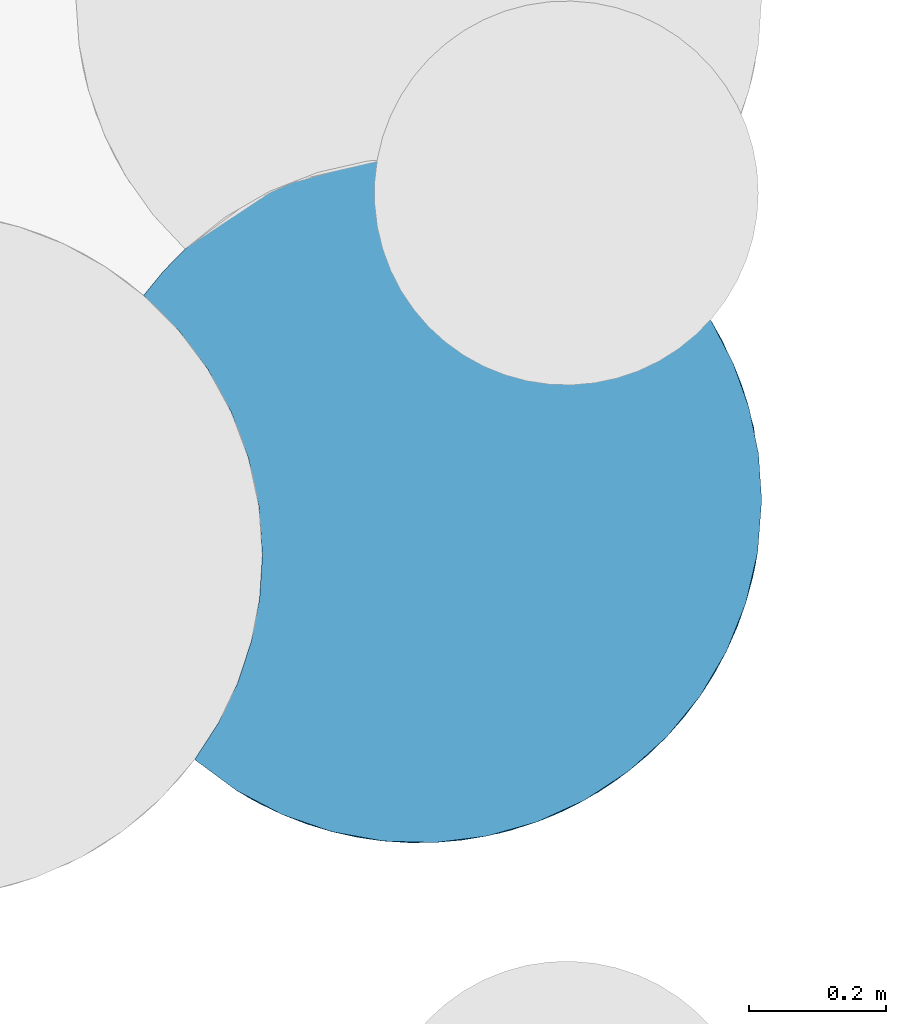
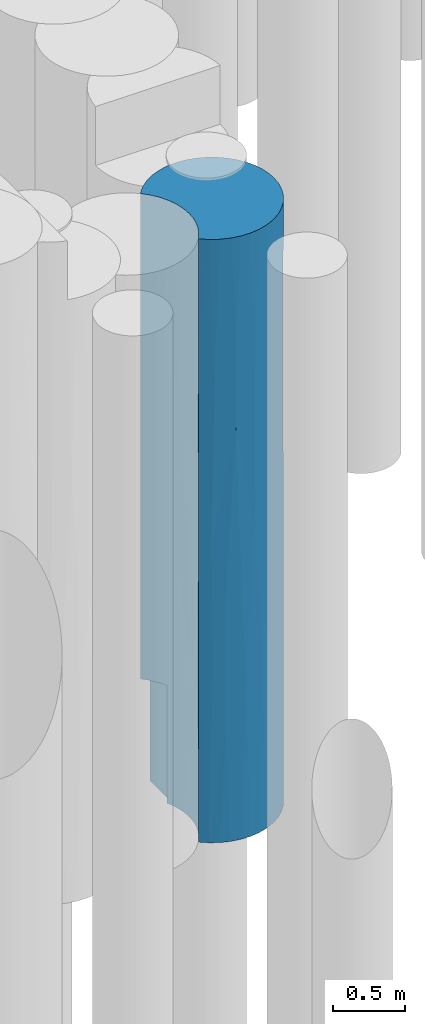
# One storey, part 41 of 104: 1 pile.
"""IFC2X3 building model written with IfcOpenShell, lengths in millimetres."""

from ifc_helpers import new_model, entity, si_unit, converted_unit, derived_unit, direction, frame, origin, place, context, subcontext, project, spatial, faceted_brep, source, transform, mapped, material, element, save


model = new_model("IFC2X3")

# Units and contexts
model_context = context("Model", 3, precision=0.01, world=origin(), true_north=direction((6.12303176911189e-17, 1.0)))
body_context = subcontext(model_context, "Body", "Model", "MODEL_VIEW")
ifc_project = project(units=[si_unit("LENGTHUNIT", "METRE", prefix="MILLI"), si_unit("AREAUNIT", "SQUARE_METRE", prefix="MILLI"), si_unit("VOLUMEUNIT", "CUBIC_METRE"), converted_unit("PLANEANGLEUNIT", "DEGREE", entity("IfcRatioMeasure", 0.0174532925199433), si_unit("PLANEANGLEUNIT", "RADIAN"), dimensions=[0, 0, 0, 0, 0, 0, 0]), si_unit("MASSUNIT", "GRAM", prefix="KILO"), derived_unit("MASSDENSITYUNIT", [(si_unit("MASSUNIT", "GRAM", prefix="KILO"), 1), (si_unit("LENGTHUNIT", "METRE"), -3)]), derived_unit("MOMENTOFINERTIAUNIT", [(si_unit("LENGTHUNIT", "METRE"), 4)]), si_unit("TIMEUNIT", "SECOND"), si_unit("FREQUENCYUNIT", "HERTZ"), si_unit("THERMODYNAMICTEMPERATUREUNIT", "DEGREE_CELSIUS"), derived_unit("THERMALTRANSMITTANCEUNIT", [(si_unit("MASSUNIT", "GRAM", prefix="KILO"), 1), (si_unit("THERMODYNAMICTEMPERATUREUNIT", "KELVIN"), -1), (si_unit("TIMEUNIT", "SECOND"), -3)]), derived_unit("VOLUMETRICFLOWRATEUNIT", [(si_unit("LENGTHUNIT", "METRE"), 3), (si_unit("TIMEUNIT", "SECOND"), -1)]), si_unit("ELECTRICCURRENTUNIT", "AMPERE"), si_unit("ELECTRICVOLTAGEUNIT", "VOLT"), si_unit("POWERUNIT", "WATT"), si_unit("FORCEUNIT", "NEWTON", prefix="KILO"), si_unit("ILLUMINANCEUNIT", "LUX"), si_unit("LUMINOUSFLUXUNIT", "LUMEN"), si_unit("LUMINOUSINTENSITYUNIT", "CANDELA"), derived_unit("USERDEFINED", [(si_unit("MASSUNIT", "GRAM", prefix="KILO"), -1), (si_unit("LENGTHUNIT", "METRE"), -2), (si_unit("TIMEUNIT", "SECOND"), 3), (si_unit("LUMINOUSFLUXUNIT", "LUMEN"), 1)]), derived_unit("LINEARVELOCITYUNIT", [(si_unit("LENGTHUNIT", "METRE"), 1), (si_unit("TIMEUNIT", "SECOND"), -1)]), si_unit("PRESSUREUNIT", "PASCAL"), derived_unit("USERDEFINED", [(si_unit("LENGTHUNIT", "METRE"), -2), (si_unit("MASSUNIT", "GRAM", prefix="KILO"), 1), (si_unit("TIMEUNIT", "SECOND"), -2)]), derived_unit("LINEARFORCEUNIT", [(si_unit("MASSUNIT", "GRAM", prefix="KILO"), 1), (si_unit("LENGTHUNIT", "METRE"), 1), (si_unit("TIMEUNIT", "SECOND"), -2), (si_unit("LENGTHUNIT", "METRE"), -1)]), derived_unit("PLANARFORCEUNIT", [(si_unit("MASSUNIT", "GRAM", prefix="KILO"), 1), (si_unit("LENGTHUNIT", "METRE"), 1), (si_unit("TIMEUNIT", "SECOND"), -2), (si_unit("LENGTHUNIT", "METRE"), -2)])], contexts=[model_context])

# Site, building, storey
site_placement = place(None, origin())
site = spatial("IfcSite", under=ifc_project, at=site_placement, Name="Theater aan de Parade", CompositionType="ELEMENT")
building_placement = place(site_placement, origin())
building = spatial("IfcBuilding", under=site, at=building_placement, Name="Theater aan de Parade", CompositionType="ELEMENT")
storey_placement = place(building_placement, frame((0.0, 0.0, -5520.0)))
storey = spatial("IfcBuildingStorey", under=building, at=storey_placement, Name="-2 kelder", CompositionType="ELEMENT", Elevation=-5520.0)

# Pile
ifc_material = material(Name="00_PBT_MAT_grout")
shared_shape = source(origin(), body_context, "Body", "Brep", [
    faceted_brep([(688.956678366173, 911.009093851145, 0.0), (743.414937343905, 867.014657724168, 0.0), (790.172816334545, 817.119218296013, 0.0), (829.681584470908, 761.306483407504, 0.0), (861.206904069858, 700.6221248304, 0.0), (884.158139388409, 636.199918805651, 0.0), (898.104119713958, 569.246509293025, 0.0), (902.783141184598, 501.003354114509, 0.0), (897.001537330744, 425.186621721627, 0.0), (879.790962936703, 351.124943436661, 0.0), (851.549579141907, 280.529582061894, 0.0), (812.930848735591, 215.033324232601, 0.0), (764.828072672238, 156.150533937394, 0.0), (708.353791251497, 105.24259580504, 0.0), (644.814052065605, 63.4864536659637, 0.0), (575.678207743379, 31.8474141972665, 0.0), (502.544941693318, 11.0568436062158, 0.0), (427.105307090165, 1.5952722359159, 0.0), (351.103633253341, 3.68129703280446, 0.0), (276.29720274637, 17.2665378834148, 0.0), (204.415630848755, 42.0367639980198, 0.0), (137.120885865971, 77.4191640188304, 0.0), (75.9710101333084, 122.593746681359, 0.0), (110.7582185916, 176.206025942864, 0.0), (138.422594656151, 233.817731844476, 0.0), (158.512165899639, 294.487621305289, 0.0), (170.698714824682, 357.22448754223, 0.0), (174.783141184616, 421.003354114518, 0.0), (171.540325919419, 477.856669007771, 0.0), (161.863470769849, 533.931439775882, 0.0), (145.875753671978, 588.549617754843, 0.0), (123.782027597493, 641.003354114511, 0.0), (157.925011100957, 641.003354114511, 0.0), (157.925011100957, 936.944286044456, 0.0), (221.226640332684, 966.875908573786, 0.0), (288.083557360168, 987.669569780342, 0.0), (357.188434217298, 998.920137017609, 0.0), (427.185378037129, 1000.40752994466, 0.0), (496.702426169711, 992.103311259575, 0.0), (564.377155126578, 974.170739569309, 0.0), (628.883302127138, 946.961555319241, 0.0), (322.438827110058, 994.505928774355, 1282.27259528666), (653.264413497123, 933.737836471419, 3795.83790584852), (620.155918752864, 951.280019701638, 5120.0), (684.966306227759, 913.765587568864, 5120.0), (120.60205529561, 913.767008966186, 5120.0), (152.305137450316, 933.739728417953, 3869.98944994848), (65.2719899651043, 869.902016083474, 4072.63406948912), (1.59527223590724, 799.412961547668, 1000.0), (1.59527223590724, 799.412961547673, 2561.53770911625), (62.1714187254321, 867.041131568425, 2111.01340475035), (462.089427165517, 997.47365981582, 1581.75322573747), (597.107040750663, 961.696551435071, 1257.30007650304), (873.785245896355, 668.803882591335, 1224.61580077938), (810.393314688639, 790.578813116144, 1227.76835647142), (291.294364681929, 988.415143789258, 4018.05503753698), (402.789346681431, 1001.00335407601, 5120.0), (440.233502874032, 999.598851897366, 3597.55641595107), (790.195397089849, 817.091544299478, 5120.0), (829.696881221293, 761.281395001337, 5120.0), (810.901260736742, 789.862490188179, 4198.83994657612), (873.790301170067, 668.789692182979, 3667.7045161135), (846.482925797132, 731.503898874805, 2321.46632743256), (831.363147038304, 758.528456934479, 3270.09048671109), (716.959737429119, 889.967448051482, 1581.7524588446), (291.294364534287, 988.415143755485, 2863.54711781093), (132.451343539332, 921.62280109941, 2591.14696489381), (552.293405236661, 978.126693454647, 3513.5551891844), (597.107040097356, 961.696551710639, 2555.15622973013), (381.900540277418, 1000.56708075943, 2286.11021102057), (486.339056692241, 993.972327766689, 2622.29369186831), (891.471580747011, 606.755938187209, 2293.4601023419), (902.783141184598, 501.003354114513, 1561.5377269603), (767.669837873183, 842.847907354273, 3455.92721107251), (328.109753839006, 995.395794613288, 5120.0), (902.783141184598, 501.003354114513, 4339.2311365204), (902.783141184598, 501.003354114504, 3558.46229406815), (902.783141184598, 501.003354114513, 3123.07545392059), (1.59527223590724, 799.412961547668, 3558.46229088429), (60.8203712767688, 865.779263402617, 3060.0), (884.160903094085, 636.190078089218, 5120.0), (861.214852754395, 700.603869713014, 5120.0), (751.164142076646, 859.654547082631, 4276.76927699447), (514.281066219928, 988.413051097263, 4312.91708706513), (550.468633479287, 978.694672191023, 5120.0), (743.435456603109, 867.003354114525, 5120.0), (898.104058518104, 569.246953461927, 5120.0), (783.254948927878, 825.412360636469, 2196.14099872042), (704.83856107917, 899.453505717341, 2674.98621083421), (243.008932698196, 974.788328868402, 844.457078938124), (222.713980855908, 967.452812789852, 1932.09878721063), (902.783141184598, 501.003354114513, 5120.0), (157.925011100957, 936.944286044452, 1000.0), (902.783141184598, 501.003354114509, 998.462294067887), (30.3499760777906, 834.610214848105, 1000.0), (185.41489933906, 951.282209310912, 5120.0), (477.467333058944, 995.39416256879, 5120.0), (255.105142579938, 978.696988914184, 5120.0), (107.933197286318, 904.814585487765, 1000.0), (30.3632910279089, 834.625078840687, 5120.0), (62.1308257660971, 867.003354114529, 5120.0), (1.59527223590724, 799.412961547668, 5120.0), (62.1308257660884, 867.003354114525, 1000.0), (902.783141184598, 501.003354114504, 1996.92458813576), (239.884915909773, 28.2833860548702, 985.533119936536), (833.48700383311, 247.046305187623, 763.756902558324), (160.763158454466, 63.4804084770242, 1508.39203621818), (889.806112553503, 387.828156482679, 1243.38232280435), (894.294758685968, 409.2627967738, 2585.02002867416), (737.560000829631, 129.621536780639, 1256.11627260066), (737.560000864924, 129.621536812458, 2559.99035727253), (664.678124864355, 75.0796314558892, 2532.41882020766), (539.507329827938, 20.0600141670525, 931.026428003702), (170.100425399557, 58.444031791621, 3876.64698094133), (75.9710101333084, 122.593746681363, 3123.05809541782), (150.944380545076, 69.0574794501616, 2534.92556141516), (204.42256820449, 42.0337657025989, 5120.0), (313.452274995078, 9.0480753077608, 4356.2333615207), (427.11844403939, 1.59591220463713, 5120.0), (351.115137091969, 3.68010173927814, 5120.0), (313.452275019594, 9.04807530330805, 3516.23541147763), (465.018888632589, 4.89176209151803, 3863.87412958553), (465.005227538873, 4.89004853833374, 2559.99174826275), (583.115591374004, 34.6556218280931, 2560.05166781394), (623.688776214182, 52.4493435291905, 809.647077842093), (610.848392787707, 46.350903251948, 1638.16420768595), (389.064762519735, 1.19158345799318, 1351.62857056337), (137.125335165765, 77.4163735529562, 5120.0), (75.9710101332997, 122.593746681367, 4121.51527056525), (75.9710101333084, 122.593746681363, 1561.52904770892), (597.857527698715, 40.6274384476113, 4310.39147796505), (644.827658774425, 63.49398106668, 5120.0), (575.692472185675, 31.8526712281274, 5120.0), (879.793427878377, 351.132788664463, 5120.0), (867.017727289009, 315.298617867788, 4134.44629867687), (897.002294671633, 425.191558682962, 5120.0), (502.55903638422, 11.0597137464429, 5120.0), (610.86237429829, 46.3573019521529, 3481.8967249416), (833.48700384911, 247.046305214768, 1603.75003146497), (519.821385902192, 14.8942621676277, 1815.32158857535), (815.563758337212, 218.847081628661, 2655.57624756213), (790.009139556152, 184.687015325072, 3768.32282124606), (239.88491597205, 28.2833860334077, 2031.25095226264), (867.017727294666, 315.298617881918, 3088.70580692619), (346.499933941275, 4.1812525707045, 2464.46198377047), (75.9710101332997, 122.593746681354, 780.768853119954), (892.098140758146, 398.188806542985, 3611.57605287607), (812.938395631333, 215.044148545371, 5120.0), (677.391693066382, 83.1635005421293, 4188.99838983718), (708.365956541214, 105.251989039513, 5120.0), (764.838144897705, 156.161108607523, 5120.0), (851.554468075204, 280.539533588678, 5120.0), (694.166503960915, 94.683608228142, 3304.71297202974), (276.306569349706, 17.2640888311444, 5120.0), (75.9710101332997, 122.59374668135, 1996.9245875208), (75.9710101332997, 122.593746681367, 5120.0), (75.9710101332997, 122.59374668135, 3558.46229376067), (164.982544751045, 519.515001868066, 1040.71293659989), (49.3129456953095, 752.254656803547, 1000.0), (174.783141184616, 421.003354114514, 2560.0), (158.984468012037, 545.699284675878, 2060.7688407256), (174.783141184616, 421.003354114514, 1561.53772742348), (90.2877612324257, 699.13265986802, 1000.0), (108.010946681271, 670.630413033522, 2269.65785668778), (163.31309177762, 527.485687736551, 4136.13062833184), (174.783141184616, 421.003354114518, 3558.46227257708), (174.783141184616, 421.00335411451, 4339.23114702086), (174.783141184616, 421.003354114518, 5120.0), (123.782027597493, 641.003354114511, 1000.0), (62.3197291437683, 736.93909598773, 3904.44561282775), (52.2114731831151, 748.948249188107, 5120.0), (95.1150212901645, 691.782065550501, 5120.0), (113.393903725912, 661.046264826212, 4136.13062493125), (129.429193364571, 629.08258718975, 5120.0), (167.800262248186, 504.274707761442, 3059.23111514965), (174.783141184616, 421.00335411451, 3123.07541191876), (143.138862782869, 596.054541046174, 3333.66789957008), (96.5585909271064, 689.527971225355, 3216.61609838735), (154.452787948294, 562.131062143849, 5120.0), (169.674454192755, 492.295627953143, 5120.0), (149.437717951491, 263.831369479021, 3675.79987369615), (158.512165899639, 294.487621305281, 5120.0), (170.698714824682, 357.224487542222, 5120.0), (149.437717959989, 263.831369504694, 1444.20012581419), (121.681571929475, 196.767334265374, 2777.69344068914), (162.540491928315, 311.036237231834, 2643.98552182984), (138.422594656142, 233.817731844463, 5120.0), (110.758218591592, 176.206025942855, 5120.0), (157.925011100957, 641.003354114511, 1000.0)], [[[0, 1, 2, 3, 4, 5, 6, 7, 8, 9, 10, 11, 12, 13, 14, 15, 16, 17, 18, 19, 20, 21, 22, 23, 24, 25, 26, 27, 28, 29, 30, 31, 32, 33, 34, 35, 36, 37, 38, 39, 40]], [[41, 37, 36]], [[42, 43, 44]], [[45, 46, 47]], [[48, 49, 50]], [[38, 51, 52]], [[53, 4, 3]], [[2, 54, 3]], [[55, 56, 57]], [[58, 59, 60]], [[61, 62, 63]], [[64, 0, 52]], [[65, 66, 46]], [[67, 42, 68]], [[52, 0, 40]], [[1, 0, 64]], [[69, 57, 70]], [[1, 54, 2]], [[52, 40, 39]], [[71, 72, 53]], [[6, 5, 53]], [[60, 63, 73]], [[55, 74, 56]], [[51, 68, 52]], [[54, 53, 3]], [[61, 75, 76, 77]], [[78, 79, 49]], [[4, 53, 5]], [[80, 61, 81]], [[60, 82, 58]], [[81, 61, 60]], [[43, 83, 84]], [[71, 61, 77]], [[82, 85, 58]], [[61, 80, 86]], [[83, 43, 42]], [[54, 62, 53]], [[38, 37, 51]], [[87, 88, 73]], [[89, 90, 41]], [[86, 91, 75]], [[36, 35, 41]], [[63, 62, 87]], [[81, 60, 59]], [[51, 37, 41]], [[89, 34, 92]], [[46, 55, 65]], [[6, 72, 93, 7]], [[46, 66, 79]], [[79, 50, 49]], [[47, 46, 79]], [[87, 62, 54]], [[48, 50, 94]], [[46, 45, 95]], [[34, 33, 92]], [[86, 75, 61]], [[82, 60, 73]], [[52, 39, 38]], [[96, 83, 56]], [[55, 97, 74]], [[90, 92, 66]], [[6, 53, 72]], [[71, 53, 62]], [[55, 57, 65]], [[64, 52, 68]], [[55, 46, 95]], [[1, 64, 54]], [[66, 92, 98]], [[47, 99, 100]], [[88, 42, 73]], [[82, 44, 85]], [[47, 101, 99]], [[41, 90, 69]], [[50, 98, 102]], [[35, 34, 89]], [[95, 97, 55]], [[83, 42, 67]], [[60, 61, 63]], [[51, 70, 68]], [[87, 54, 64]], [[61, 71, 62]], [[71, 77, 103, 72]], [[79, 78, 47]], [[50, 79, 66]], [[47, 78, 101]], [[45, 47, 100]], [[98, 50, 66]], [[94, 50, 102]], [[73, 42, 82]], [[44, 82, 42]], [[88, 87, 64]], [[63, 87, 73]], [[64, 68, 88]], [[42, 88, 68]], [[66, 65, 90]], [[90, 65, 69]], [[69, 70, 51]], [[67, 70, 57]], [[41, 69, 51]], [[57, 69, 65]], [[90, 89, 92]], [[35, 89, 41]], [[70, 67, 68]], [[83, 96, 84]], [[67, 57, 83]], [[56, 83, 57]], [[20, 19, 104]], [[12, 11, 105]], [[21, 104, 106]], [[107, 103, 108]], [[21, 20, 104]], [[109, 110, 111]], [[112, 16, 15]], [[113, 114, 115]], [[116, 113, 117]], [[118, 119, 117]], [[112, 17, 16]], [[113, 120, 117]], [[121, 122, 123]], [[112, 124, 125]], [[17, 126, 18]], [[124, 15, 14]], [[117, 121, 118]], [[127, 128, 113]], [[93, 8, 7]], [[129, 106, 115]], [[130, 131, 132]], [[120, 113, 115]], [[133, 134, 135]], [[127, 113, 116]], [[118, 121, 136]], [[8, 93, 107]], [[130, 121, 137]], [[109, 12, 105]], [[124, 109, 125]], [[107, 138, 105]], [[109, 13, 12]], [[135, 76, 75, 91]], [[112, 139, 126]], [[140, 141, 110]], [[107, 105, 9]], [[126, 142, 104]], [[143, 140, 138]], [[104, 18, 126]], [[144, 126, 122]], [[138, 107, 108]], [[138, 110, 109, 105]], [[21, 129, 145, 22]], [[135, 134, 146]], [[134, 147, 141]], [[137, 148, 130]], [[124, 13, 109]], [[131, 148, 149]], [[150, 149, 148]], [[105, 11, 10]], [[130, 136, 121]], [[76, 146, 108]], [[142, 144, 120]], [[147, 150, 141]], [[8, 107, 9]], [[122, 139, 123]], [[133, 151, 134]], [[137, 111, 152]], [[120, 122, 121]], [[152, 141, 148]], [[141, 143, 134]], [[117, 119, 153]], [[104, 19, 18]], [[106, 104, 142]], [[134, 151, 147]], [[146, 134, 143]], [[139, 112, 125]], [[17, 112, 126]], [[152, 148, 137]], [[150, 148, 141]], [[117, 153, 116]], [[121, 117, 120]], [[105, 10, 9]], [[115, 106, 142]], [[21, 106, 129]], [[115, 142, 120]], [[115, 114, 154, 129]], [[108, 146, 143]], [[135, 146, 76]], [[108, 143, 138]], [[108, 103, 77, 76]], [[123, 139, 125]], [[126, 139, 122]], [[152, 111, 110]], [[123, 137, 121]], [[111, 137, 123]], [[141, 152, 110]], [[123, 125, 111]], [[109, 111, 125]], [[15, 124, 112]], [[124, 14, 13]], [[131, 130, 148]], [[130, 132, 136]], [[126, 144, 142]], [[122, 120, 144]], [[141, 140, 143]], [[110, 138, 140]], [[128, 127, 155]], [[113, 128, 156, 114]], [[107, 93, 72, 103]], [[27, 157, 28]], [[49, 48, 158]], [[159, 160, 161]], [[162, 163, 158]], [[164, 165, 166, 167]], [[157, 29, 28]], [[162, 168, 163]], [[101, 169, 170]], [[171, 172, 173]], [[174, 159, 175, 165]], [[164, 172, 176]], [[169, 172, 171]], [[168, 30, 157]], [[163, 176, 177]], [[163, 168, 160]], [[157, 160, 168]], [[49, 158, 163]], [[78, 49, 177]], [[163, 160, 176]], [[173, 164, 178]], [[179, 178, 164]], [[174, 176, 160]], [[165, 164, 174]], [[164, 173, 172]], [[176, 172, 177]], [[179, 164, 167]], [[157, 161, 160]], [[30, 168, 31]], [[163, 177, 49]], [[169, 177, 172]], [[78, 177, 169]], [[159, 174, 160]], [[176, 174, 164]], [[78, 169, 101]], [[170, 169, 171]], [[27, 161, 157]], [[30, 29, 157]], [[180, 181, 182]], [[182, 167, 166]], [[161, 27, 26]], [[183, 145, 129, 154]], [[184, 180, 185]], [[23, 145, 183]], [[180, 186, 181]], [[180, 166, 165, 175]], [[26, 25, 183]], [[175, 185, 180]], [[182, 166, 180]], [[23, 22, 145]], [[187, 156, 128, 155]], [[185, 175, 159, 161]], [[186, 180, 187]], [[183, 25, 24]], [[187, 180, 156]], [[184, 154, 114, 156]], [[156, 180, 184]], [[184, 183, 154]], [[24, 23, 183]], [[161, 26, 183]], [[185, 183, 184]], [[183, 185, 161]], [[170, 171, 173, 178, 179, 167, 182, 181, 186, 187, 155, 127, 116, 153, 119, 118, 136, 132, 131, 149, 150, 147, 151, 133, 135, 91, 86, 80, 81, 59, 58, 85, 44, 43, 84, 96, 56, 74, 97, 95, 45, 100, 99, 101]], [[94, 102, 98, 92, 188, 168, 162, 158, 48]], [[188, 32, 31, 168]], [[188, 92, 33, 32]]]),
])
pile_placement = place(storey_placement, frame((39047.0749888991, 22241.3640492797, -3840.0)))
element("IfcPile", 1, at=pile_placement, inside=storey, material=ifc_material, Name="17_PBT_SFO_grondkering_rond:Ø1000 (grondkering)", ObjectType="17_PBT_SFO_grondkering_rond:Ø1000 (grondkering)", PredefinedType="NOTDEFINED", context=body_context, shape_type="MappedRepresentation", body=[
    mapped(shared_shape, transform((0.0, 0.0, 0.0), scale=1.0)),
])

save(model, "model.ifc")
